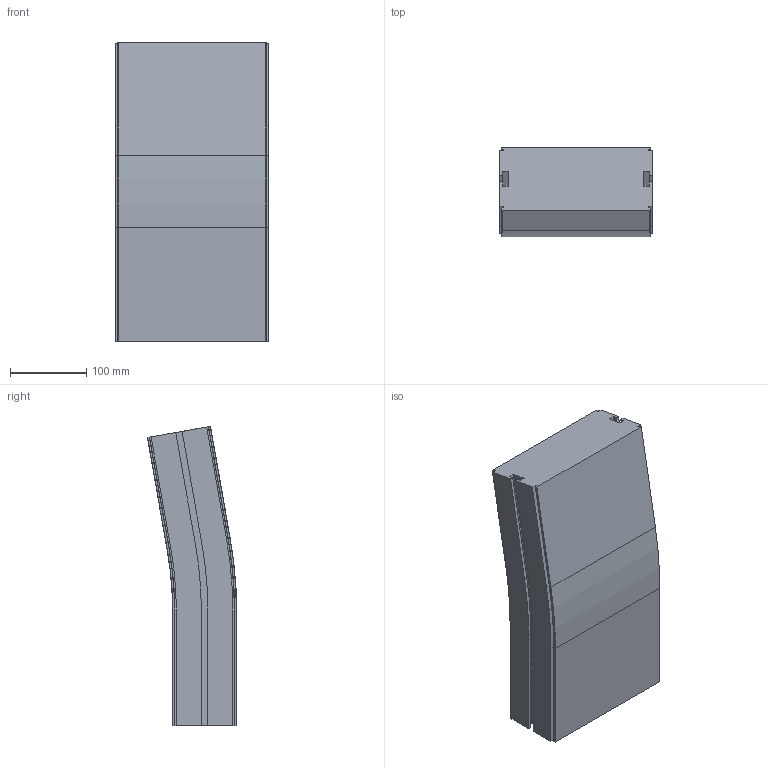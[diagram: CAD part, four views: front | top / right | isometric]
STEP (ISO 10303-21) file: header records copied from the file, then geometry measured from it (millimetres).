
FILE_DESCRIPTION (( 'STEP AP214' ), '1' );
FILE_NAME ('CS SL Verticaalbocht.200 10°.STEP', '2017-02-08T07:37:34', ( '' ), ( '' ), 'SwSTEP 2.0', 'SolidWorks 2016', '' );
FILE_SCHEMA (( 'AUTOMOTIVE_DESIGN' ));
Length unit declared in the file: millimetre
Products named in the file (1): CS SL Verticaalbocht.200 10°
Bounding box: 200 x 117.01 x 391.84 mm (x, y, z)
Volume: 6337472.4 mm3; surface area: 293731.3 mm2
Topology: 1 solids, 1 shells, 98 faces, 272 edges, 176 vertices
Faces by surface type: plane 72, cylinder 18, cone 8
Entity records: 3126 total; most frequent: CARTESIAN_POINT 547, ORIENTED_EDGE 544, DIRECTION 514, EDGE_CURVE 272, VECTOR 228, LINE 228, VERTEX_POINT 176, AXIS2_PLACEMENT_3D 143
